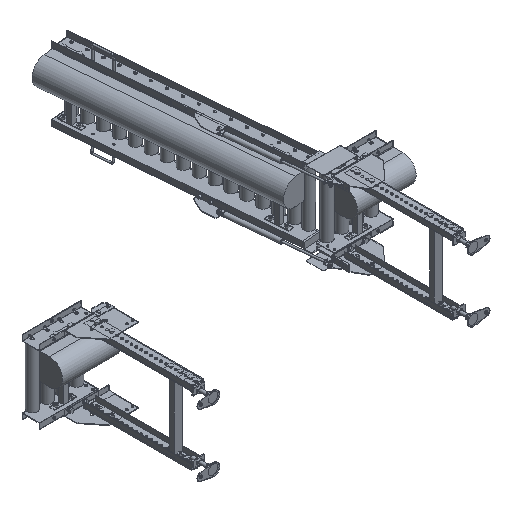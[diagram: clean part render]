
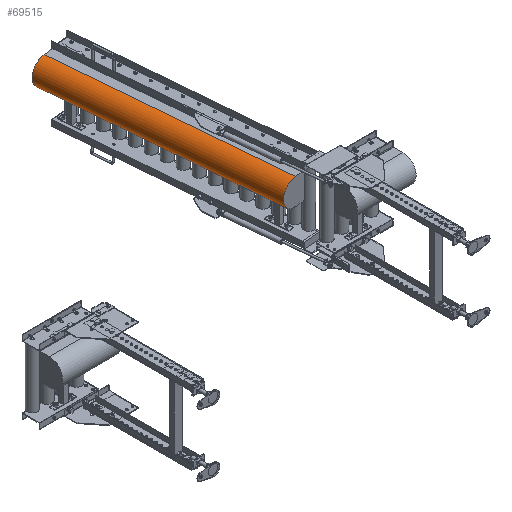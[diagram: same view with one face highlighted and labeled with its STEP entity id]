
A CAD part, isometric view. The second image highlights one B-rep face of the part: STEP entity #69515.
In plain terms, the highlighted cylindrical face has radius 66.89 mm (diameter 133.78 mm), a partial arc.
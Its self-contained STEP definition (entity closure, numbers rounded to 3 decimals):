
#4863 = EDGE_CURVE ( 'NONE', #24220, #24673, #44213, .T. ) ;
#6349 = ORIENTED_EDGE ( 'NONE', *, *, #68874, .F. ) ;
#9387 = LINE ( 'NONE', #54868, #60948 ) ;
#12246 = EDGE_CURVE ( 'NONE', #65760, #53750, #71116, .T. ) ;
#13541 = CARTESIAN_POINT ( 'NONE',  ( -78.917, 18.539, 159.5 ) ) ;
#18472 = CARTESIAN_POINT ( 'NONE',  ( -63.444, -158.438, 159.5 ) ) ;
#18965 = DIRECTION ( 'NONE',  ( -0.087, 0.996, 0. ) ) ;
#19006 = DIRECTION ( 'NONE',  ( -0.087, 0.996, 0. ) ) ;
#20511 = AXIS2_PLACEMENT_3D ( 'NONE', #74756, #44649, #75505 ) ;
#24220 = VERTEX_POINT ( 'NONE', #13541 ) ;
#24673 = VERTEX_POINT ( 'NONE', #71589 ) ;
#29327 = DIRECTION ( 'NONE',  ( 0.087, -0.996, 0. ) ) ;
#29395 = AXIS2_PLACEMENT_3D ( 'NONE', #46934, #29327, #58187 ) ;
#31189 = CARTESIAN_POINT ( 'NONE',  ( -63.444, -158.438, 92.61 ) ) ;
#31390 = EDGE_LOOP ( 'NONE', ( #74881, #31821, #39475, #6349 ) ) ;
#31733 = LINE ( 'NONE', #18472, #43038 ) ;
#31821 = ORIENTED_EDGE ( 'NONE', *, *, #51134, .T. ) ;
#39475 = ORIENTED_EDGE ( 'NONE', *, *, #12246, .T. ) ;
#43038 = VECTOR ( 'NONE', #19006, 1000. ) ;
#44213 = CIRCLE ( 'NONE', #29395, 66.89 ) ;
#44649 = DIRECTION ( 'NONE',  ( 0.087, -0.996, 0. ) ) ;
#46934 = CARTESIAN_POINT ( 'NONE',  ( -78.917, 18.539, 92.61 ) ) ;
#50524 = CARTESIAN_POINT ( 'NONE',  ( -181.863, 1196.047, 159.5 ) ) ;
#51134 = EDGE_CURVE ( 'NONE', #24220, #65760, #31733, .T. ) ;
#53750 = VERTEX_POINT ( 'NONE', #68928 ) ;
#54868 = CARTESIAN_POINT ( 'NONE',  ( -63.444, -158.438, 25.72 ) ) ;
#57015 = FACE_OUTER_BOUND ( 'NONE', #31390, .T. ) ;
#58187 = DIRECTION ( 'NONE',  ( 0., 0., -1. ) ) ;
#60948 = VECTOR ( 'NONE', #18965, 1000. ) ;
#61090 = DIRECTION ( 'NONE',  ( 0., 0., 1. ) ) ;
#62675 = CYLINDRICAL_SURFACE ( 'NONE', #76206, 66.89 ) ;
#65760 = VERTEX_POINT ( 'NONE', #50524 ) ;
#66837 = DIRECTION ( 'NONE',  ( -0.087, 0.996, 0. ) ) ;
#68874 = EDGE_CURVE ( 'NONE', #24673, #53750, #9387, .T. ) ;
#68928 = CARTESIAN_POINT ( 'NONE',  ( -181.863, 1196.047, 25.72 ) ) ;
#69515 = ADVANCED_FACE ( 'NONE', ( #57015 ), #62675, .T. ) ;
#71116 = CIRCLE ( 'NONE', #20511, 66.89 ) ;
#71589 = CARTESIAN_POINT ( 'NONE',  ( -78.917, 18.539, 25.72 ) ) ;
#74756 = CARTESIAN_POINT ( 'NONE',  ( -181.863, 1196.047, 92.61 ) ) ;
#74881 = ORIENTED_EDGE ( 'NONE', *, *, #4863, .F. ) ;
#75505 = DIRECTION ( 'NONE',  ( 0., 0., 1. ) ) ;
#76206 = AXIS2_PLACEMENT_3D ( 'NONE', #31189, #66837, #61090 ) ;
